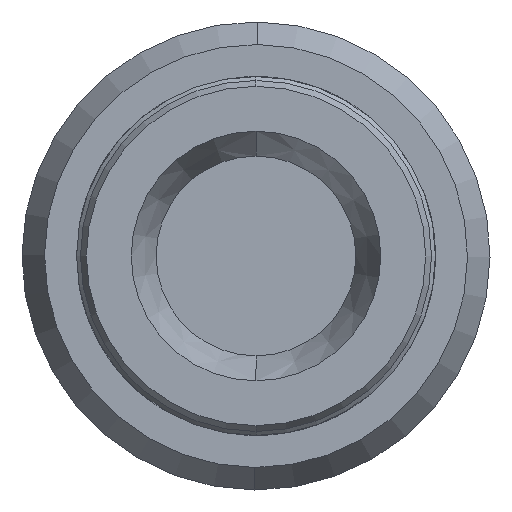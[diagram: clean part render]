
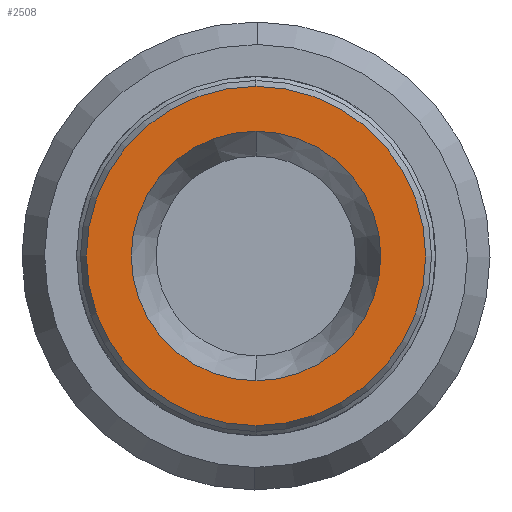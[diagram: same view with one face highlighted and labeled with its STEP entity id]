
A CAD part, front view. The second image highlights one B-rep face of the part: STEP entity #2508.
In plain terms, the highlighted planar face has unit normal (0, -1, 0).
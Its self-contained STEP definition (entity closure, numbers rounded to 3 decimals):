
#19 = ORIENTED_EDGE ( 'NONE', *, *, #2011, .T. ) ;
#96 = DIRECTION ( 'NONE',  ( 0., 0., -1. ) ) ;
#191 = CARTESIAN_POINT ( 'NONE',  ( 0., -85., -21.75 ) ) ;
#256 = AXIS2_PLACEMENT_3D ( 'NONE', #4104, #2086, #96 ) ;
#265 = VERTEX_POINT ( 'NONE', #3072 ) ;
#290 = DIRECTION ( 'NONE',  ( 0., 0., -1. ) ) ;
#356 = CARTESIAN_POINT ( 'NONE',  ( 0., -85., 16. ) ) ;
#393 = PLANE ( 'NONE',  #256 ) ;
#397 = EDGE_CURVE ( 'NONE', #3618, #265, #1175, .T. ) ;
#458 = VERTEX_POINT ( 'NONE', #356 ) ;
#465 = EDGE_CURVE ( 'NONE', #265, #3618, #3592, .T. ) ;
#969 = FACE_OUTER_BOUND ( 'NONE', #1493, .T. ) ;
#995 = DIRECTION ( 'NONE',  ( 0., 1., 0. ) ) ;
#1175 = CIRCLE ( 'NONE', #1637, 21.75 ) ;
#1235 = DIRECTION ( 'NONE',  ( 0., 0., -1. ) ) ;
#1261 = ORIENTED_EDGE ( 'NONE', *, *, #2864, .T. ) ;
#1392 = DIRECTION ( 'NONE',  ( 0., 1., 0. ) ) ;
#1493 = EDGE_LOOP ( 'NONE', ( #2741, #2994 ) ) ;
#1637 = AXIS2_PLACEMENT_3D ( 'NONE', #3002, #995, #3346 ) ;
#1947 = DIRECTION ( 'NONE',  ( 0., 1., 0. ) ) ;
#2011 = EDGE_CURVE ( 'NONE', #2521, #458, #3394, .T. ) ;
#2086 = DIRECTION ( 'NONE',  ( 0., 1., 0. ) ) ;
#2307 = DIRECTION ( 'NONE',  ( 0., 1., 0. ) ) ;
#2412 = CARTESIAN_POINT ( 'NONE',  ( 0., -85., -16. ) ) ;
#2508 = ADVANCED_FACE ( 'NONE', ( #3544, #969 ), #393, .F. ) ;
#2521 = VERTEX_POINT ( 'NONE', #2412 ) ;
#2671 = AXIS2_PLACEMENT_3D ( 'NONE', #4313, #2307, #290 ) ;
#2741 = ORIENTED_EDGE ( 'NONE', *, *, #397, .F. ) ;
#2814 = AXIS2_PLACEMENT_3D ( 'NONE', #3400, #1392, #3747 ) ;
#2864 = EDGE_CURVE ( 'NONE', #458, #2521, #3372, .T. ) ;
#2942 = EDGE_LOOP ( 'NONE', ( #1261, #19 ) ) ;
#2994 = ORIENTED_EDGE ( 'NONE', *, *, #465, .F. ) ;
#3002 = CARTESIAN_POINT ( 'NONE',  ( 0., -85., 0. ) ) ;
#3072 = CARTESIAN_POINT ( 'NONE',  ( 0., -85., 21.75 ) ) ;
#3346 = DIRECTION ( 'NONE',  ( 0., 0., -1. ) ) ;
#3372 = CIRCLE ( 'NONE', #2671, 16. ) ;
#3377 = AXIS2_PLACEMENT_3D ( 'NONE', #3975, #1947, #1235 ) ;
#3394 = CIRCLE ( 'NONE', #3377, 16. ) ;
#3400 = CARTESIAN_POINT ( 'NONE',  ( 0., -85., 0. ) ) ;
#3544 = FACE_BOUND ( 'NONE', #2942, .T. ) ;
#3592 = CIRCLE ( 'NONE', #2814, 21.75 ) ;
#3618 = VERTEX_POINT ( 'NONE', #191 ) ;
#3747 = DIRECTION ( 'NONE',  ( 0., 0., -1. ) ) ;
#3975 = CARTESIAN_POINT ( 'NONE',  ( 0., -85., 0. ) ) ;
#4104 = CARTESIAN_POINT ( 'NONE',  ( 0., -85., 0. ) ) ;
#4313 = CARTESIAN_POINT ( 'NONE',  ( 0., -85., 0. ) ) ;
